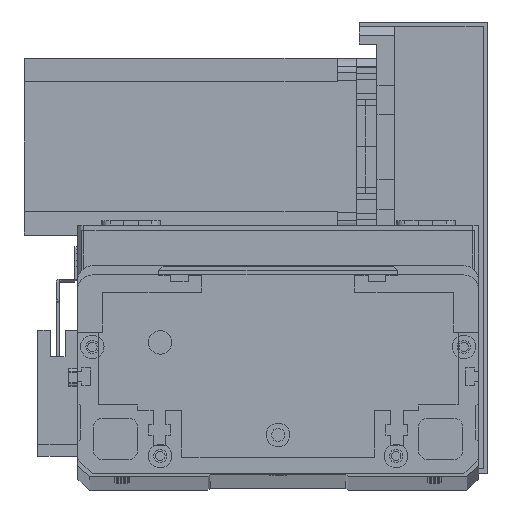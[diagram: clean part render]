
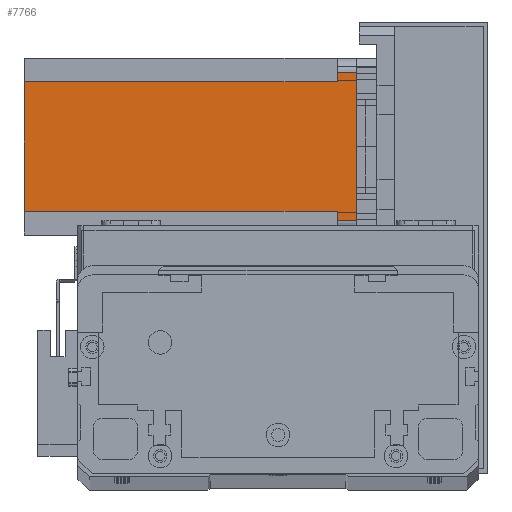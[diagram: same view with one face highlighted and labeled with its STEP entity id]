
A CAD part, top view. The second image highlights one B-rep face of the part: STEP entity #7766.
In plain terms, the highlighted planar face has unit normal (0, 0, 1) as drawn and (0, 1, 0) by its records, which use the part's own axes.
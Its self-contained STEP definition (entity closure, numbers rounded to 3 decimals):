
#136 = VECTOR ( 'NONE', #8340, 1000. ) ;
#206 = VERTEX_POINT ( 'NONE', #14019 ) ;
#2444 = LINE ( 'NONE', #22625, #8978 ) ;
#2714 = CARTESIAN_POINT ( 'NONE',  ( 52., 60., -6.5 ) ) ;
#3227 = VERTEX_POINT ( 'NONE', #12804 ) ;
#3889 = VERTEX_POINT ( 'NONE', #21991 ) ;
#4026 = VECTOR ( 'NONE', #9565, 1000. ) ;
#4331 = DIRECTION ( 'NONE',  ( 0., 0., 1. ) ) ;
#4532 = DIRECTION ( 'NONE',  ( 0., 1., 0. ) ) ;
#4702 = EDGE_CURVE ( 'NONE', #206, #3889, #25247, .T. ) ;
#4927 = EDGE_CURVE ( 'NONE', #21677, #3889, #17094, .T. ) ;
#5349 = EDGE_CURVE ( 'NONE', #23126, #21677, #23496, .T. ) ;
#5365 = ORIENTED_EDGE ( 'NONE', *, *, #7185, .T. ) ;
#5602 = PLANE ( 'NONE',  #21892 ) ;
#5720 = EDGE_CURVE ( 'NONE', #23126, #3227, #13114, .T. ) ;
#5806 = VERTEX_POINT ( 'NONE', #7070 ) ;
#6141 = CARTESIAN_POINT ( 'NONE',  ( 0., 60., -112.5 ) ) ;
#6578 = EDGE_CURVE ( 'NONE', #30830, #3227, #10917, .T. ) ;
#6795 = VERTEX_POINT ( 'NONE', #25025 ) ;
#7070 = CARTESIAN_POINT ( 'NONE',  ( 5., 60., -6.5 ) ) ;
#7185 = EDGE_CURVE ( 'NONE', #30830, #5806, #10475, .T. ) ;
#7416 = FACE_OUTER_BOUND ( 'NONE', #12236, .T. ) ;
#7766 = ADVANCED_FACE ( 'NONE', ( #7416 ), #5602, .T. ) ;
#8176 = EDGE_CURVE ( 'NONE', #5806, #6795, #21505, .T. ) ;
#8212 = CARTESIAN_POINT ( 'NONE',  ( 0., 60., -112.5 ) ) ;
#8340 = DIRECTION ( 'NONE',  ( -1., 0., 0. ) ) ;
#8925 = VECTOR ( 'NONE', #22889, 1000. ) ;
#8978 = VECTOR ( 'NONE', #10519, 1000. ) ;
#9565 = DIRECTION ( 'NONE',  ( -1., 0., 0. ) ) ;
#9881 = CARTESIAN_POINT ( 'NONE',  ( 8., 60., -6.5 ) ) ;
#10475 = LINE ( 'NONE', #9881, #4026 ) ;
#10519 = DIRECTION ( 'NONE',  ( -1., 0., 0. ) ) ;
#10805 = VECTOR ( 'NONE', #18582, 1000. ) ;
#10917 = LINE ( 'NONE', #12922, #16486 ) ;
#11993 = DIRECTION ( 'NONE',  ( 0., 0., -1. ) ) ;
#12236 = EDGE_LOOP ( 'NONE', ( #14402, #24288, #18050, #24864, #18589, #28305, #5365, #28721 ) ) ;
#12804 = CARTESIAN_POINT ( 'NONE',  ( 8., 60., -112.5 ) ) ;
#12884 = DIRECTION ( 'NONE',  ( 0., 0., 1. ) ) ;
#12922 = CARTESIAN_POINT ( 'NONE',  ( 8., 60., -112.5 ) ) ;
#13114 = LINE ( 'NONE', #8212, #136 ) ;
#13163 = CARTESIAN_POINT ( 'NONE',  ( 52., 60., -112.5 ) ) ;
#14019 = CARTESIAN_POINT ( 'NONE',  ( 55., 60., 0. ) ) ;
#14402 = ORIENTED_EDGE ( 'NONE', *, *, #23276, .F. ) ;
#16486 = VECTOR ( 'NONE', #11993, 1000. ) ;
#16508 = VECTOR ( 'NONE', #12884, 1000. ) ;
#17094 = LINE ( 'NONE', #19178, #10805 ) ;
#18050 = ORIENTED_EDGE ( 'NONE', *, *, #4927, .F. ) ;
#18582 = DIRECTION ( 'NONE',  ( 1., 0., 0. ) ) ;
#18589 = ORIENTED_EDGE ( 'NONE', *, *, #5720, .T. ) ;
#19178 = CARTESIAN_POINT ( 'NONE',  ( 52., 60., -6.5 ) ) ;
#21505 = LINE ( 'NONE', #22618, #8925 ) ;
#21677 = VERTEX_POINT ( 'NONE', #2714 ) ;
#21785 = DIRECTION ( 'NONE',  ( 0., 0., -1. ) ) ;
#21892 = AXIS2_PLACEMENT_3D ( 'NONE', #6141, #4532, #4331 ) ;
#21991 = CARTESIAN_POINT ( 'NONE',  ( 55., 60., -6.5 ) ) ;
#22004 = CARTESIAN_POINT ( 'NONE',  ( 55., 60., -112.5 ) ) ;
#22195 = CARTESIAN_POINT ( 'NONE',  ( 52., 60., -112.5 ) ) ;
#22618 = CARTESIAN_POINT ( 'NONE',  ( 5., 60., -112.5 ) ) ;
#22625 = CARTESIAN_POINT ( 'NONE',  ( 0., 60., 0. ) ) ;
#22889 = DIRECTION ( 'NONE',  ( 0., 0., 1. ) ) ;
#23126 = VERTEX_POINT ( 'NONE', #22195 ) ;
#23276 = EDGE_CURVE ( 'NONE', #206, #6795, #2444, .T. ) ;
#23408 = CARTESIAN_POINT ( 'NONE',  ( 8., 60., -6.5 ) ) ;
#23496 = LINE ( 'NONE', #13163, #16508 ) ;
#24288 = ORIENTED_EDGE ( 'NONE', *, *, #4702, .T. ) ;
#24492 = VECTOR ( 'NONE', #21785, 1000. ) ;
#24864 = ORIENTED_EDGE ( 'NONE', *, *, #5349, .F. ) ;
#25025 = CARTESIAN_POINT ( 'NONE',  ( 5., 60., 0. ) ) ;
#25247 = LINE ( 'NONE', #22004, #24492 ) ;
#28305 = ORIENTED_EDGE ( 'NONE', *, *, #6578, .F. ) ;
#28721 = ORIENTED_EDGE ( 'NONE', *, *, #8176, .T. ) ;
#30830 = VERTEX_POINT ( 'NONE', #23408 ) ;
